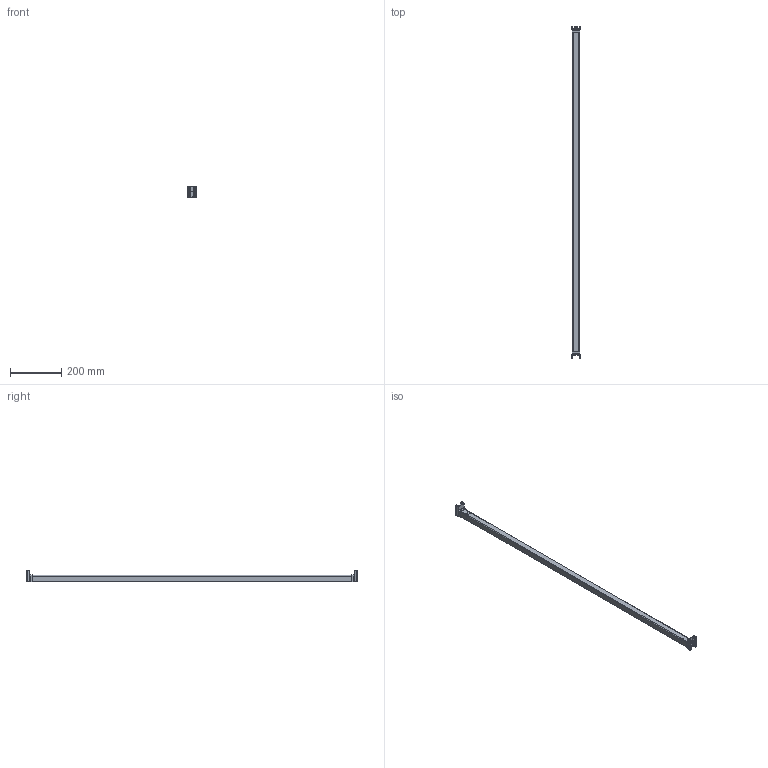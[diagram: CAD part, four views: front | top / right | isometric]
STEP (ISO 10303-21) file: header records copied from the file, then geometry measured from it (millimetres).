
FILE_DESCRIPTION (( 'STEP AP214' ), '1' );
FILE_NAME ('1000255.STEP', '2025-10-01T14:46:53', ( '' ), ( '' ), 'SwSTEP 2.0', 'SolidWorks 2025', '' );
FILE_SCHEMA (( 'AUTOMOTIVE_DESIGN' ));
Length unit declared in the file: millimetre
Products named in the file (1): 1000255
Bounding box: 35.6 x 1293 x 46.3 mm (x, y, z)
Volume: 854812.1 mm3; surface area: 146088.1 mm2
Topology: 8 solids, 8 shells, 467 faces, 1257 edges, 809 vertices
Faces by surface type: plane 319, cylinder 128, bspline 20
Entity records: 14905 total; most frequent: CARTESIAN_POINT 3428, ORIENTED_EDGE 2514, DIRECTION 2144, EDGE_CURVE 1257, VECTOR 918, LINE 918, VERTEX_POINT 809, AXIS2_PLACEMENT_3D 613
